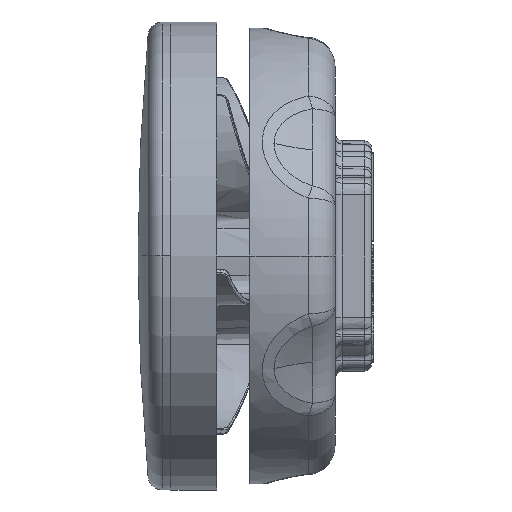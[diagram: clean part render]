
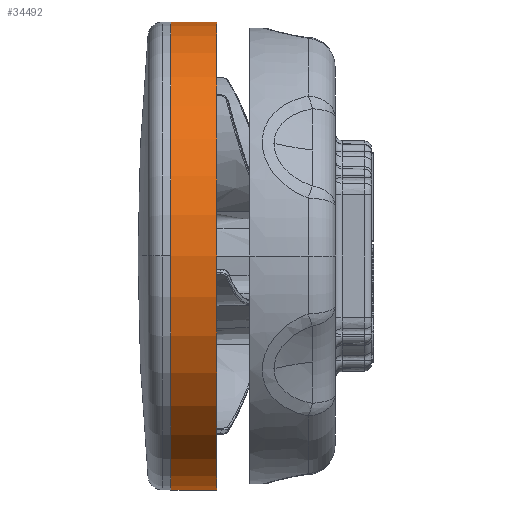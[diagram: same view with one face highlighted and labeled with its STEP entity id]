
A CAD part, left-side view. The second image highlights one B-rep face of the part: STEP entity #34492.
In plain terms, the highlighted cylindrical face has radius 24.422 mm (diameter 48.844 mm), a partial arc.
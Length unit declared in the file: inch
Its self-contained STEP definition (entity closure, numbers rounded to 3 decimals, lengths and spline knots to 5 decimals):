
#97 = VERTEX_POINT ( 'NONE', #54213 ) ;
#319 = CYLINDRICAL_SURFACE ( 'NONE', #14624, 0.9615 ) ;
#1630 = DIRECTION ( 'NONE',  ( 0., 0., -1. ) ) ;
#3112 = DIRECTION ( 'NONE',  ( 0., 1., 0. ) ) ;
#3471 = CARTESIAN_POINT ( 'NONE',  ( 0., 0.188, 0.9615 ) ) ;
#3637 = LINE ( 'NONE', #3471, #37458 ) ;
#4751 = LINE ( 'NONE', #52637, #28594 ) ;
#5869 = CARTESIAN_POINT ( 'NONE',  ( 0., 0.188, 0. ) ) ;
#8710 = ORIENTED_EDGE ( 'NONE', *, *, #37853, .F. ) ;
#9307 = ORIENTED_EDGE ( 'NONE', *, *, #13537, .T. ) ;
#11090 = CARTESIAN_POINT ( 'NONE',  ( 0., 0., -0.9615 ) ) ;
#12008 = DIRECTION ( 'NONE',  ( 0., -1., 0. ) ) ;
#13308 = DIRECTION ( 'NONE',  ( 0., 1., 0. ) ) ;
#13537 = EDGE_CURVE ( 'NONE', #41264, #42184, #34523, .T. ) ;
#14624 = AXIS2_PLACEMENT_3D ( 'NONE', #5869, #48099, #1630 ) ;
#20679 = ORIENTED_EDGE ( 'NONE', *, *, #21204, .F. ) ;
#21204 = EDGE_CURVE ( 'NONE', #28392, #42184, #3637, .T. ) ;
#27233 = DIRECTION ( 'NONE',  ( 0., -1., 0. ) ) ;
#28392 = VERTEX_POINT ( 'NONE', #45956 ) ;
#28505 = CARTESIAN_POINT ( 'NONE',  ( 0., 0.188, 0. ) ) ;
#28594 = VECTOR ( 'NONE', #27233, 39.37008 ) ;
#30724 = CARTESIAN_POINT ( 'NONE',  ( 0., 0., 0.9615 ) ) ;
#32756 = DIRECTION ( 'NONE',  ( 0., 0., 1. ) ) ;
#34492 = ADVANCED_FACE ( 'NONE', ( #45327 ), #319, .T. ) ;
#34523 = CIRCLE ( 'NONE', #39117, 0.9615 ) ;
#37458 = VECTOR ( 'NONE', #12008, 39.37008 ) ;
#37853 = EDGE_CURVE ( 'NONE', #97, #28392, #52588, .T. ) ;
#38031 = ORIENTED_EDGE ( 'NONE', *, *, #46163, .T. ) ;
#38667 = CARTESIAN_POINT ( 'NONE',  ( 0., 0., 0. ) ) ;
#39117 = AXIS2_PLACEMENT_3D ( 'NONE', #38667, #13308, #42923 ) ;
#41264 = VERTEX_POINT ( 'NONE', #11090 ) ;
#42184 = VERTEX_POINT ( 'NONE', #30724 ) ;
#42923 = DIRECTION ( 'NONE',  ( 0., 0., 1. ) ) ;
#44817 = AXIS2_PLACEMENT_3D ( 'NONE', #28505, #3112, #32756 ) ;
#45327 = FACE_OUTER_BOUND ( 'NONE', #54579, .T. ) ;
#45956 = CARTESIAN_POINT ( 'NONE',  ( 0., 0.188, 0.9615 ) ) ;
#46163 = EDGE_CURVE ( 'NONE', #97, #41264, #4751, .T. ) ;
#48099 = DIRECTION ( 'NONE',  ( 0., -1., 0. ) ) ;
#52588 = CIRCLE ( 'NONE', #44817, 0.9615 ) ;
#52637 = CARTESIAN_POINT ( 'NONE',  ( 0., 0.188, -0.9615 ) ) ;
#54213 = CARTESIAN_POINT ( 'NONE',  ( 0., 0.188, -0.9615 ) ) ;
#54579 = EDGE_LOOP ( 'NONE', ( #20679, #8710, #38031, #9307 ) ) ;
